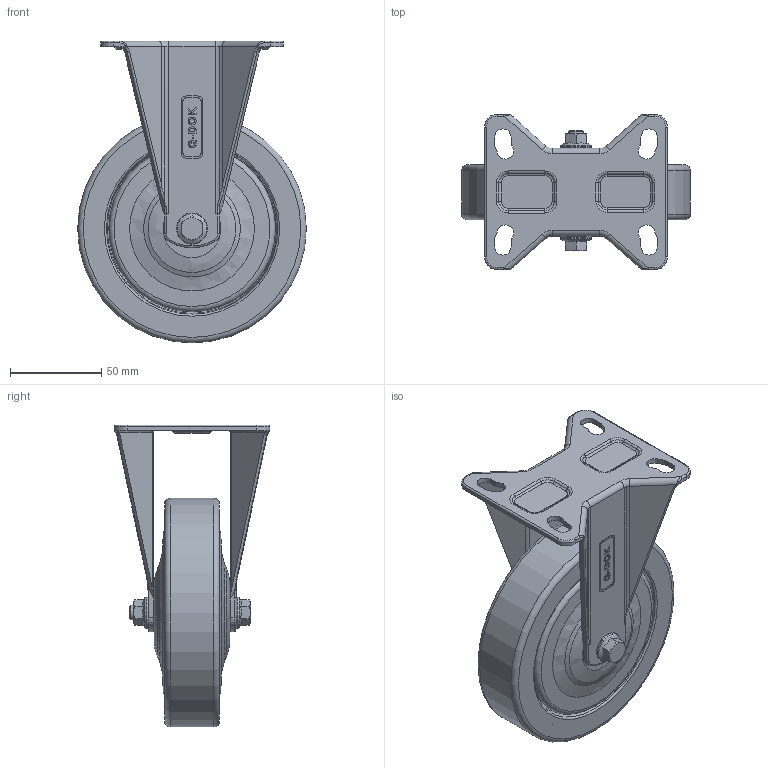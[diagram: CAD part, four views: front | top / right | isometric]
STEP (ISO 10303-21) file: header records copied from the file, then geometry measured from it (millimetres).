
FILE_DESCRIPTION((''),'2;1');
FILE_NAME('C:\Documents and Settings\Administrator\바탕 화면\3D STEP\P-SERIES\P-125-ARF\P-125A-RF.stp','2010-12-27T15:12:39',('Administrator'),(''),'Autodesk Inventor 2009','Autodesk Inventor 2009','');
FILE_SCHEMA(('AUTOMOTIVE_DESIGN { 1 0 10303 214 1 1 1 1 }'));
Length unit declared in the file: millimetre
Products named in the file (1): P-125A-RF
Bounding box: 125 x 85 x 165 mm (x, y, z)
Volume: 320222.3 mm3; surface area: 130805.8 mm2
Topology: 5 solids, 5 shells, 836 faces, 2248 edges, 1466 vertices
Faces by surface type: plane 340, cylinder 223, bspline 180, torus 56, cone 37
Full cylindrical faces by diameter (mm): 8 x4, 8.2 x4, 12 x6, 17 x2, 18 x5, 22 x4, 86 x2, 91 x2, 124.998 x1
Entity records: 38488 total; most frequent: CARTESIAN_POINT 18772, ORIENTED_EDGE 4198, DIRECTION 3872, EDGE_CURVE 2099, AXIS2_PLACEMENT_3D 1469, VERTEX_POINT 1421, EDGE_LOOP 996, VECTOR 934
